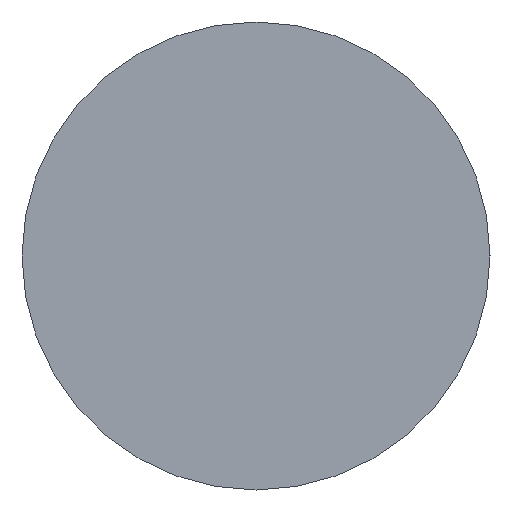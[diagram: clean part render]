
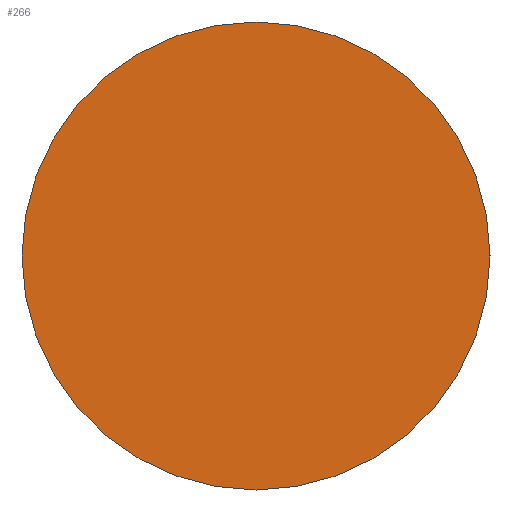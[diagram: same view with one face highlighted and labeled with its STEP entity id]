
A CAD part, left-side view. The second image highlights one B-rep face of the part: STEP entity #266.
In plain terms, the highlighted planar face has unit normal (-1, 0, 0).
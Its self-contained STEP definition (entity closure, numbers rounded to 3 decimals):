
#7 = DIRECTION ( 'NONE',  ( 1., 0., 0. ) ) ;
#19 = CARTESIAN_POINT ( 'NONE',  ( 0., 0., 0. ) ) ;
#20 = AXIS2_PLACEMENT_3D ( 'NONE', #19, #7, #187 ) ;
#24 = ORIENTED_EDGE ( 'NONE', *, *, #208, .F. ) ;
#25 = CIRCLE ( 'NONE', #20, 7. ) ;
#33 = AXIS2_PLACEMENT_3D ( 'NONE', #167, #219, #169 ) ;
#62 = DIRECTION ( 'NONE',  ( 0., 1., 0. ) ) ;
#81 = ORIENTED_EDGE ( 'NONE', *, *, #256, .F. ) ;
#85 = CARTESIAN_POINT ( 'NONE',  ( 0., 0., 0. ) ) ;
#106 = CARTESIAN_POINT ( 'NONE',  ( 0., 7., 0. ) ) ;
#134 = DIRECTION ( 'NONE',  ( 1., 0., 0. ) ) ;
#136 = VERTEX_POINT ( 'NONE', #200 ) ;
#160 = AXIS2_PLACEMENT_3D ( 'NONE', #85, #134, #62 ) ;
#167 = CARTESIAN_POINT ( 'NONE',  ( 0., 0., 0. ) ) ;
#169 = DIRECTION ( 'NONE',  ( 0., -1., 0. ) ) ;
#180 = VERTEX_POINT ( 'NONE', #106 ) ;
#187 = DIRECTION ( 'NONE',  ( 0., 1., 0. ) ) ;
#200 = CARTESIAN_POINT ( 'NONE',  ( 0., -7., 0. ) ) ;
#208 = EDGE_CURVE ( 'NONE', #180, #136, #240, .T. ) ;
#212 = FACE_OUTER_BOUND ( 'NONE', #225, .T. ) ;
#219 = DIRECTION ( 'NONE',  ( -1., 0., 0. ) ) ;
#225 = EDGE_LOOP ( 'NONE', ( #24, #81 ) ) ;
#229 = PLANE ( 'NONE',  #33 ) ;
#240 = CIRCLE ( 'NONE', #160, 7. ) ;
#256 = EDGE_CURVE ( 'NONE', #136, #180, #25, .T. ) ;
#266 = ADVANCED_FACE ( 'NONE', ( #212 ), #229, .T. ) ;
